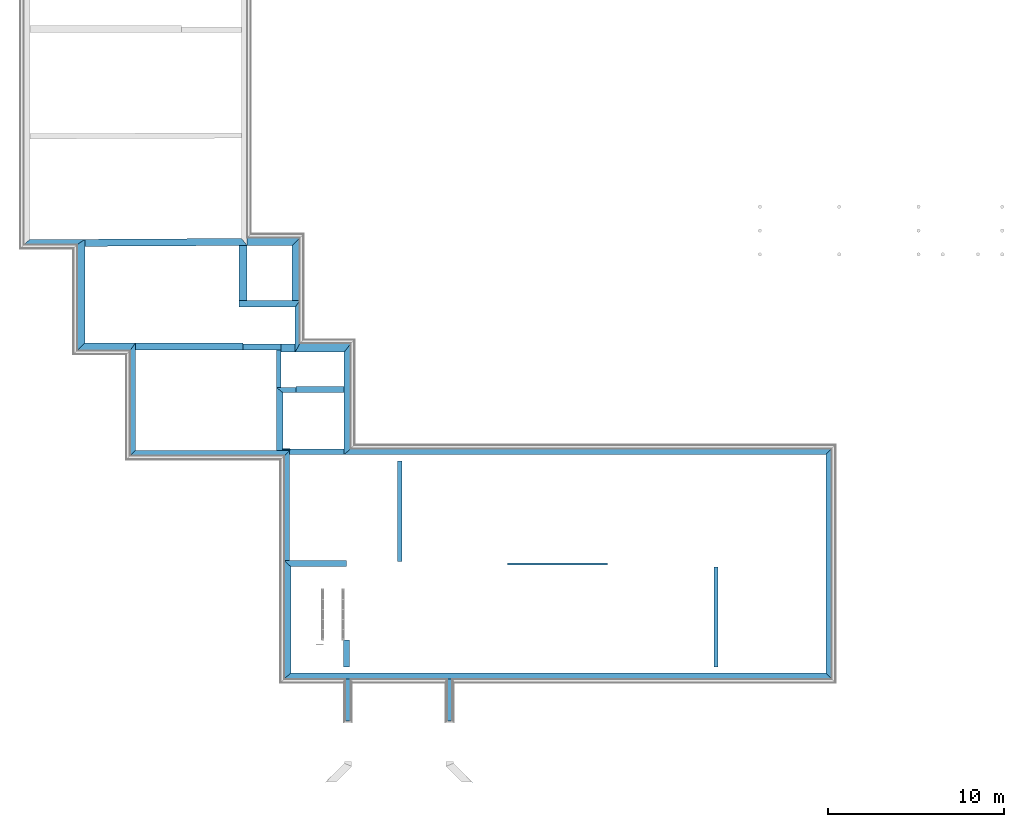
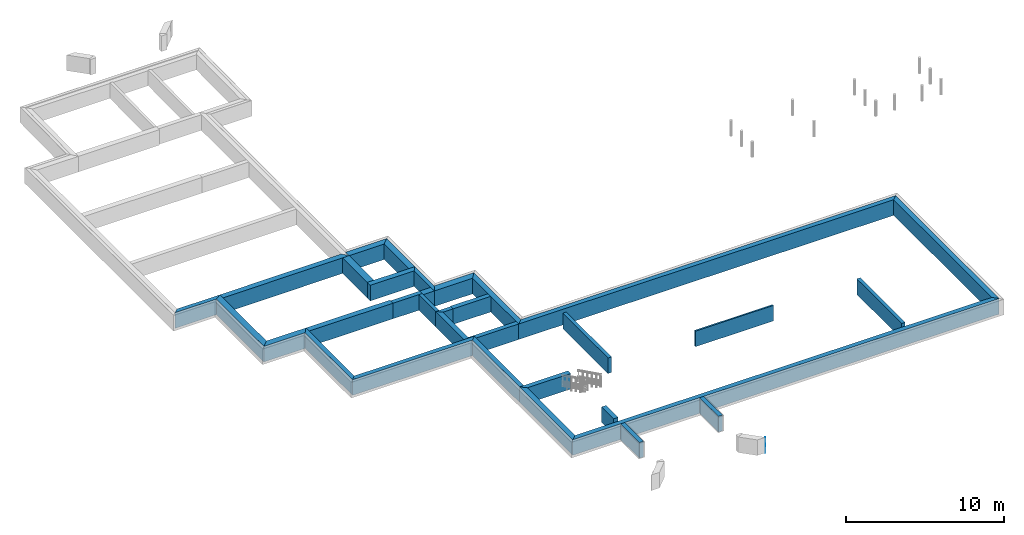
# One storey, part 7 of 16: 35 walls, 1 opening.
"""IFC2X3 building model written with IfcOpenShell, lengths in millimetres."""

from ifc_helpers import new_model, entity, si_unit, converted_unit, derived_unit, money_unit, direction, frame, origin_with_axes, origin_2d_with_axis, place, context, subcontext, project, spatial, polyline, rectangle, outline, extrude, material, layer, layer_set, layer_usage, type_object, element, save


model = new_model("IFC2X3")

# Units and contexts
model_context = context("Model", 3, precision=0.01, world=origin_with_axes(), true_north=direction((0.0, 1.0)))
body_context = subcontext(model_context, "Body", "Model", "MODEL_VIEW")
ifc_project = project(units=[si_unit("LENGTHUNIT", "METRE", prefix="MILLI"), si_unit("AREAUNIT", "SQUARE_METRE"), si_unit("VOLUMEUNIT", "CUBIC_METRE"), converted_unit("PLANEANGLEUNIT", "DEGREE", entity("IfcPlaneAngleMeasure", 0.0174532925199), si_unit("PLANEANGLEUNIT", "RADIAN"), dimensions=[0, 0, 0, 0, 0, 0, 0]), si_unit("SOLIDANGLEUNIT", "STERADIAN"), money_unit("EUR"), converted_unit("TIMEUNIT", "Year", entity("IfcTimeMeasure", 31556926.0), si_unit("TIMEUNIT", "SECOND"), dimensions=[0, 0, 1, 0, 0, 0, 0]), si_unit("MASSUNIT", "GRAM", prefix="KILO"), si_unit("THERMODYNAMICTEMPERATUREUNIT", "DEGREE_CELSIUS"), si_unit("LUMINOUSINTENSITYUNIT", "LUMEN"), si_unit("ENERGYUNIT", "JOULE", prefix="MEGA"), derived_unit("THERMALCONDUCTANCEUNIT", [(si_unit("POWERUNIT", "WATT"), 1), (si_unit("LENGTHUNIT", "METRE"), -1), (si_unit("THERMODYNAMICTEMPERATUREUNIT", "KELVIN"), -1)]), derived_unit("SPECIFICHEATCAPACITYUNIT", [(si_unit("ENERGYUNIT", "JOULE"), 1), (si_unit("MASSUNIT", "GRAM", prefix="KILO"), -1), (si_unit("THERMODYNAMICTEMPERATUREUNIT", "KELVIN"), -1)]), derived_unit("MASSDENSITYUNIT", [(si_unit("MASSUNIT", "GRAM", prefix="KILO"), 1), (si_unit("VOLUMEUNIT", "CUBIC_METRE"), -1)])], contexts=[model_context])

# Site, building, storey
site_placement = place(None, origin_with_axes())
site = spatial("IfcSite", under=ifc_project, at=site_placement, Name="Paldiski mnt 245/1, Tallinn, Harjumaa", CompositionType="COMPLEX")
building_placement = place(site_placement, origin_with_axes())
building = spatial("IfcBuilding", under=site, at=building_placement, Name="RKAS Hoone üldnimetus (kasutust iseloomustav) -> IFC Project Manager -> SOLIBRI", CompositionType="ELEMENT")
storey_placement = place(building_placement, frame((0.0, 0.0, -1200.0), z_axis=(0.0, 0.0, 1.0), x_axis=(1.0, 0.0, 0.0)))
storey = spatial("IfcBuildingStorey", under=building, at=storey_placement, Name="Vundament", CompositionType="ELEMENT", Elevation=-1200.0)

# Walls
ifc_material_1 = material(Name="Olemasolev raudbetoonplokk")
ifc_layer_1 = layer(ifc_material_1, 320.0, ventilated="UNKNOWN")
ifc_layer_set_1 = layer_set([ifc_layer_1], Name="Olemasolev raudbetoonplokk 320")
ifc_layer_usage_1 = layer_usage(ifc_layer_set_1, "AXIS2", "POSITIVE", 0.0)
wall_type_1 = type_object("IfcWallType", Name="Olemasolev raudbetoonplokk 320", PredefinedType="NOTDEFINED")
wall_1_placement = place(storey_placement, frame((-56390.0, 130.000000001, 0.0), z_axis=(0.0, 0.0, 1.0), x_axis=(0.0, 1.0, 0.0)))
element("IfcWallStandardCase", 1, at=wall_1_placement, inside=storey, type_object=wall_type_1, material=ifc_layer_usage_1, Name="VS-01", context=body_context, shape_type="SweptSolid", body=[
    extrude(outline(polyline([(0.0, 0.0), (6100.0, 0.0), (5660.0, 320.0), (-320.0, 320.0), (0.0, 0.0)])), origin_with_axes(), (0.0, 0.0, 1.0), 1200.0),
])
ifc_layer_usage_2 = layer_usage(ifc_layer_set_1, "AXIS2", "POSITIVE", 0.0)
wall_2_placement = place(storey_placement, frame((-47650.0, -6130.08408706, 0.0), z_axis=(0.0, 0.0, 1.0), x_axis=(0.0, 1.0, 0.0)))
element("IfcWallStandardCase", 2, at=wall_2_placement, inside=storey, type_object=wall_type_1, material=ifc_layer_usage_2, Name="VS-01", context=body_context, shape_type="SweptSolid", body=[
    extrude(outline(polyline([(0.0, 0.0), (6260.08408706, 0.0), (5940.08408706, 320.0), (0.0, 320.0), (0.0, 0.0)])), origin_with_axes(), (0.0, 0.0, 1.0), 1200.0),
])
ifc_layer_usage_3 = layer_usage(ifc_layer_set_1, "AXIS2", "POSITIVE", 0.0)
wall_3_placement = place(storey_placement, frame((-47650.0, 130.000000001, 0.0), z_axis=(0.0, 0.0, 1.0), x_axis=(-1.0, 0.0, 0.0)))
element("IfcWallStandardCase", 3, at=wall_3_placement, inside=storey, type_object=wall_type_1, material=ifc_layer_usage_3, Name="VS-01", context=body_context, shape_type="SweptSolid", body=[
    extrude(outline(polyline([(0.0, 0.0), (8740.0, 0.0), (9060.0, 320.0), (320.0, 320.0), (0.0, 0.0)])), origin_with_axes(), (0.0, 0.0, 1.0), 1200.0),
])
ifc_layer_usage_4 = layer_usage(ifc_layer_set_1, "AXIS2", "NEGATIVE", 0.0)
wall_4_placement = place(storey_placement, frame((-50290.0, 6150.0, 0.0), z_axis=(0.0, 0.0, 1.0), x_axis=(1.0, 0.0, 0.0)))
element("IfcWallStandardCase", 4, at=wall_4_placement, inside=storey, type_object=wall_type_1, material=ifc_layer_usage_4, Name="Vundament", context=body_context, shape_type="SweptSolid", body=[
    extrude(outline(polyline([(0.0, -320.0), (2150.0, -320.0), (2150.0, 0.0), (0.0, 0.0), (0.0, -320.0)])), origin_with_axes(), (0.0, 0.0, 1.0), 1200.0),
])
ifc_layer_2 = layer(ifc_material_1, 340.0, ventilated="UNKNOWN")
ifc_layer_set_2 = layer_set([ifc_layer_2], Name="Olemasolev raudbetoonplokk 340")
ifc_layer_usage_5 = layer_usage(ifc_layer_set_2, "AXIS2", "NEGATIVE", 0.0)
wall_type_2 = type_object("IfcWallType", Name="Olemasolev raudbetoonplokk 340", PredefinedType="NOTDEFINED")
wall_5_placement = place(storey_placement, frame((-17230.0, -12510.0843011, 0.0), z_axis=(0.0, 0.0, 1.0), x_axis=(0.0, 1.0, 0.0)))
element("IfcWallStandardCase", 5, at=wall_5_placement, inside=storey, type_object=wall_type_2, material=ifc_layer_usage_5, Name="VS-01", context=body_context, shape_type="SweptSolid", body=[
    extrude(outline(polyline([(-340.0, -340.0), (12740.0843011, -340.0), (12400.0843011, 0.0), (0.0, 0.0), (-340.0, -340.0)])), origin_with_axes(), (0.0, 0.0, 1.0), 1200.0),
])
ifc_layer_usage_6 = layer_usage(ifc_layer_set_2, "AXIS2", "POSITIVE", 0.0)
wall_6_placement = place(storey_placement, frame((-17230.0, -12510.0843011, 0.0), z_axis=(0.0, 0.0, 1.0), x_axis=(-1.0, 0.0, 0.0)))
element("IfcWallStandardCase", 6, at=wall_6_placement, inside=storey, type_object=wall_type_2, material=ifc_layer_usage_6, Name="VS-01", context=body_context, shape_type="SweptSolid", body=[
    extrude(outline(polyline([(0.0, 0.0), (30360.0, 0.0), (30740.0, 340.0), (-340.0, 340.0), (0.0, 0.0)])), origin_with_axes(), (0.0, 0.0, 1.0), 1200.0),
])
ifc_layer_usage_7 = layer_usage(ifc_layer_set_2, "AXIS2", "NEGATIVE", 0.0)
wall_7_placement = place(storey_placement, frame((-17230.0, -110.0, 0.0), z_axis=(0.0, 0.0, 1.0), x_axis=(-1.0, 0.0, 0.0)))
element("IfcWallStandardCase", 7, at=wall_7_placement, inside=storey, type_object=wall_type_2, material=ifc_layer_usage_7, Name="VS-01", context=body_context, shape_type="SweptSolid", body=[
    extrude(outline(polyline([(-340.0, -340.0), (26950.5504586, -340.0), (27330.5504586, 0.0), (0.0, 0.0), (-340.0, -340.0)])), origin_with_axes(), (0.0, 0.0, 1.0), 1200.0),
])
ifc_layer_usage_8 = layer_usage(ifc_layer_set_2, "AXIS2", "NEGATIVE", 0.0)
wall_8_placement = place(storey_placement, frame((-44560.5504586, 3399.82872435, 0.0), z_axis=(0.0, 0.0, 1.0), x_axis=(-1.0, 0.0, 0.0)))
element("IfcWallStandardCase", 8, at=wall_8_placement, inside=storey, type_object=wall_type_2, material=ifc_layer_usage_8, Name="Vundament", context=body_context, shape_type="SweptSolid", body=[
    extrude(outline(polyline([(0.0, -340.0), (2739.44954137, -340.0), (2739.44954137, 0.0), (0.0, 0.0), (0.0, -340.0)])), origin_with_axes(), (0.0, 0.0, 1.0), 1200.0),
])
ifc_layer_usage_9 = layer_usage(ifc_layer_set_2, "AXIS2", "POSITIVE", 0.0)
wall_9_placement = place(storey_placement, frame((-44440.0, -6130.08408706, 0.0), z_axis=(0.0, 0.0, 1.0), x_axis=(-1.0, 0.0, 0.0)))
element("IfcWallStandardCase", 9, at=wall_9_placement, inside=storey, type_object=wall_type_2, material=ifc_layer_usage_9, Name="Vundament", context=body_context, shape_type="SweptSolid", body=[
    extrude(outline(polyline([(0.0, 0.0), (3530.0, 0.0), (3150.0, 340.0), (0.0, 340.0), (0.0, 0.0)])), origin_with_axes(), (0.0, 0.0, 1.0), 1200.0),
])
ifc_layer_usage_10 = layer_usage(ifc_layer_set_2, "AXIS2", "POSITIVE", 0.0)
wall_10_placement = place(storey_placement, frame((-44590.0, -10630.0402139, 0.0), z_axis=(0.0, 0.0, 1.0), x_axis=(0.0, -1.0, 0.0)))
element("IfcWallStandardCase", 10, at=wall_10_placement, inside=storey, type_object=wall_type_2, material=ifc_layer_usage_10, Name="Vundament", context=body_context, shape_type="SweptSolid", body=[
    extrude(outline(polyline([(0.0, 0.0), (1520.04387313, 0.0), (1520.04387313, 340.0), (0.0, 340.0), (0.0, 0.0)])), origin_with_axes(), (0.0, 0.0, 1.0), 1200.0),
])
ifc_layer_3 = layer(ifc_material_1, 380.0, ventilated="UNKNOWN")
ifc_layer_set_3 = layer_set([ifc_layer_3], Name="Olemasolev raudbetoonplokk 380")
ifc_layer_usage_11 = layer_usage(ifc_layer_set_3, "AXIS2", "NEGATIVE", 0.0)
wall_type_3 = type_object("IfcWallType", Name="Olemasolev raudbetoonplokk 380", PredefinedType="NOTDEFINED")
wall_11_placement = place(storey_placement, frame((-44560.5504586, -109.999999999, 0.0), z_axis=(0.0, 0.0, 1.0), x_axis=(0.0, 1.0, 0.0)))
element("IfcWallStandardCase", 11, at=wall_11_placement, inside=storey, type_object=wall_type_3, material=ifc_layer_usage_11, Name="VS-01", context=body_context, shape_type="SweptSolid", body=[
    extrude(outline(polyline([(340.0, -380.0), (6299.82872435, -380.0), (5809.82872435, 0.0), (0.0, 0.0), (340.0, -380.0)])), origin_with_axes(), (0.0, 0.0, 1.0), 1200.0),
])
ifc_layer_usage_12 = layer_usage(ifc_layer_set_3, "AXIS2", "POSITIVE", 0.0)
wall_12_placement = place(storey_placement, frame((-47590.0, -12510.0843011, 0.0), z_axis=(0.0, 0.0, 1.0), x_axis=(0.0, 1.0, 0.0)))
element("IfcWallStandardCase", 12, at=wall_12_placement, inside=storey, type_object=wall_type_3, material=ifc_layer_usage_12, Name="VS-01", context=body_context, shape_type="SweptSolid", body=[
    extrude(outline(polyline([(0.0, 0.0), (6040.00021402, 0.0), (6380.00021402, 380.0), (-340.0, 380.0), (0.0, 0.0)])), origin_with_axes(), (0.0, 0.0, 1.0), 1200.0),
])
ifc_layer_usage_13 = layer_usage(ifc_layer_set_3, "AXIS2", "NEGATIVE", 0.0)
wall_13_placement = place(storey_placement, frame((-47340.0, 8250.0, 0.0), z_axis=(0.0, 0.0, 1.0), x_axis=(-1.0, 0.0, 0.0)))
element("IfcWallStandardCase", 13, at=wall_13_placement, inside=storey, type_object=wall_type_3, material=ifc_layer_usage_13, Name="Vundament", context=body_context, shape_type="SweptSolid", body=[
    extrude(outline(polyline([(-270.0, -380.0), (3199.99758656, -380.0), (3199.99758656, 0.0), (0.0, 0.0), (-270.0, -380.0)])), origin_with_axes(), (0.0, 0.0, 1.0), 1200.0),
])
ifc_material_2 = material(Name="KON-00_GENEERILINE - KONSTRUKTSIOON")
ifc_layer_4 = layer(ifc_material_2, 490.0, ventilated="UNKNOWN")
ifc_layer_set_4 = layer_set([ifc_layer_4], Name="KON-00_GENEERILINE - KONSTRUKTSIOON 490")
ifc_layer_usage_14 = layer_usage(ifc_layer_set_4, "AXIS2", "NEGATIVE", 0.0)
wall_type_4 = type_object("IfcWallType", Name="KON-00_GENEERILINE - KONSTRUKTSIOON 490", PredefinedType="NOTDEFINED")
wall_14_placement = place(storey_placement, frame((-44560.5504586, 5699.82872435, 0.0), z_axis=(0.0, 0.0, 1.0), x_axis=(-1.0, 0.0, 0.0)))
element("IfcWallStandardCase", 14, at=wall_14_placement, inside=storey, type_object=wall_type_4, material=ifc_layer_usage_14, Name="VS-01", context=body_context, shape_type="SweptSolid", body=[
    extrude(outline(polyline([(-380.0, -490.0), (2509.44954137, -490.0), (2779.44954137, 0.0), (0.0, 0.0), (-380.0, -490.0)])), origin_with_axes(), (0.0, 0.0, 1.0), 1200.0),
])
ifc_layer_5 = layer(ifc_material_1, 400.0, ventilated="UNKNOWN")
ifc_layer_set_5 = layer_set([ifc_layer_5], Name="Olemasolev raudbetoonplokk 400")
ifc_layer_usage_15 = layer_usage(ifc_layer_set_5, "AXIS2", "POSITIVE", 0.0)
wall_type_5 = type_object("IfcWallType", Name="Olemasolev raudbetoonplokk 400", PredefinedType="NOTDEFINED")
wall_15_placement = place(storey_placement, frame((-59270.0, 11699.8223836, 0.0), z_axis=(0.0, 0.0, 1.0), x_axis=(0.999984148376, 0.00563054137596, 0.0)))
element("IfcWallStandardCase", 15, at=wall_15_placement, inside=storey, type_object=wall_type_5, material=ifc_layer_usage_15, Name="Vundament", context=body_context, shape_type="SweptSolid", body=[
    extrude(outline(polyline([(0.0, 0.0), (9200.14583725, 0.0), (8882.3930169, 400.0), (2.25225225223, 400.0), (0.0, 0.0)])), origin_with_axes(), (0.0, 0.0, 1.0), 1200.0),
])
ifc_layer_usage_16 = layer_usage(ifc_layer_set_5, "AXIS2", "NEGATIVE", 0.0)
wall_16_placement = place(storey_placement, frame((-56390.0, 6230.0, 0.0), z_axis=(0.0, 0.0, 1.0), x_axis=(1.0, 0.0, 0.0)))
element("IfcWallStandardCase", 16, at=wall_16_placement, inside=storey, type_object=wall_type_5, material=ifc_layer_usage_16, Name="Vundament", context=body_context, shape_type="SweptSolid", body=[
    extrude(outline(polyline([(0.0, -400.0), (6100.0, -400.0), (6100.0, 0.0), (0.0, 0.0), (0.0, -400.0)])), origin_with_axes(), (0.0, 0.0, 1.0), 1200.0),
])
ifc_layer_6 = layer(ifc_material_1, 440.0, ventilated="UNKNOWN")
ifc_layer_set_6 = layer_set([ifc_layer_6], Name="Olemasolev raudbetoonplokk 440")
ifc_layer_usage_17 = layer_usage(ifc_layer_set_6, "AXIS2", "POSITIVE", 0.0)
wall_type_6 = type_object("IfcWallType", Name="Olemasolev raudbetoonplokk 440", PredefinedType="NOTDEFINED")
wall_17_placement = place(storey_placement, frame((-50070.0, 11749.8287244, 0.0), z_axis=(0.0, 0.0, 1.0), x_axis=(1.0, 0.0, 0.0)))
element("IfcWallStandardCase", 17, at=wall_17_placement, inside=storey, type_object=wall_type_6, material=ifc_layer_usage_17, Name="VS-01", context=body_context, shape_type="SweptSolid", body=[
    extrude(outline(polyline([(0.0, 0.0), (2560.0, 0.0), (3000.0, 440.0), (0.0, 440.0), (0.0, 0.0)])), origin_with_axes(), (0.0, 0.0, 1.0), 1200.0),
])
ifc_layer_usage_18 = layer_usage(ifc_layer_set_6, "AXIS2", "NEGATIVE", 0.0)
wall_18_placement = place(storey_placement, frame((-47510.0, 8630.0, 0.0), z_axis=(0.0, 0.0, 1.0), x_axis=(0.0, 1.0, 0.0)))
element("IfcWallStandardCase", 18, at=wall_18_placement, inside=storey, type_object=wall_type_6, material=ifc_layer_usage_18, Name="VS-01", context=body_context, shape_type="SweptSolid", body=[
    extrude(outline(polyline([(0.0, -440.0), (3559.82872435, -440.0), (3119.82872435, 0.0), (0.0, 0.0), (0.0, -440.0)])), origin_with_axes(), (0.0, 0.0, 1.0), 1200.0),
])
ifc_layer_usage_19 = layer_usage(ifc_layer_set_6, "AXIS2", "POSITIVE", 0.0)
wall_19_placement = place(storey_placement, frame((-56390.0, 6230.0, 0.0), z_axis=(0.0, 0.0, 1.0), x_axis=(-1.0, 0.0, 0.0)))
element("IfcWallStandardCase", 19, at=wall_19_placement, inside=storey, type_object=wall_type_6, material=ifc_layer_usage_19, Name="VS-01", context=body_context, shape_type="SweptSolid", body=[
    extrude(outline(polyline([(0.0, 0.0), (2880.0, 0.0), (3320.0, 440.0), (320.0, 440.0), (0.0, 0.0)])), origin_with_axes(), (0.0, 0.0, 1.0), 1200.0),
])
ifc_layer_usage_20 = layer_usage(ifc_layer_set_6, "AXIS2", "NEGATIVE", 0.0)
wall_20_placement = place(storey_placement, frame((-59270.0, 12099.8287244, 0.0), z_axis=(0.0, 0.0, 1.0), x_axis=(0.0, -1.0, 0.0)))
element("IfcWallStandardCase", 20, at=wall_20_placement, inside=storey, type_object=wall_type_6, material=ifc_layer_usage_20, Name="VS-01", context=body_context, shape_type="SweptSolid", body=[
    extrude(outline(polyline([(300.0, -440.0), (6309.82872435, -440.0), (5869.82872435, 0.0), (0.0, 0.0), (300.0, -440.0)])), origin_with_axes(), (0.0, 0.0, 1.0), 1200.0),
])
ifc_layer_7 = layer(ifc_material_1, 300.0, ventilated="UNKNOWN")
ifc_layer_set_7 = layer_set([ifc_layer_7], Name="Olemasolev raudbetoonplokk 300")
ifc_layer_usage_21 = layer_usage(ifc_layer_set_7, "AXIS2", "NEGATIVE", 0.0)
wall_type_7 = type_object("IfcWallType", Name="Olemasolev raudbetoonplokk 300", PredefinedType="NOTDEFINED")
wall_21_placement = place(storey_placement, frame((-62390.0, 12099.8287244, 0.0), z_axis=(0.0, 0.0, 1.0), x_axis=(1.0, 0.0, 0.0)))
element("IfcWallStandardCase", 21, at=wall_21_placement, inside=storey, type_object=wall_type_7, material=ifc_layer_usage_21, Name="VS-01", context=body_context, shape_type="SweptSolid", body=[
    extrude(outline(polyline([(-340.0, -300.0), (2680.0, -300.0), (3120.0, 0.0), (0.0, 0.0), (-340.0, -300.0)])), origin_with_axes(), (0.0, 0.0, 1.0), 1200.0),
])
ifc_layer_usage_22 = layer_usage(ifc_layer_set_7, "AXIS2", "POSITIVE", -150.0)
wall_22_placement = place(storey_placement, frame((-44340.0, -12510.0843011, 0.0), z_axis=(0.0, 0.0, 1.0), x_axis=(0.0, -1.0, 0.0)))
element("IfcWallStandardCase", 22, at=wall_22_placement, inside=storey, type_object=wall_type_7, material=ifc_layer_usage_22, Name="Vundament", context=body_context, shape_type="SweptSolid", body=[
    extrude(outline(polyline([(340.0, -150.0), (2719.0, -150.0), (2719.0, 150.0), (340.0, 150.0), (340.0, -150.0)])), origin_with_axes(), (0.0, 0.0, 1.0), 1200.0),
])
ifc_layer_usage_23 = layer_usage(ifc_layer_set_7, "AXIS2", "NEGATIVE", 150.0)
wall_23_placement = place(storey_placement, frame((-38570.0, -12510.0862799, 0.0), z_axis=(0.0, 0.0, 1.0), x_axis=(0.0, -1.0, 0.0)))
element("IfcWallStandardCase", 23, at=wall_23_placement, inside=storey, type_object=wall_type_7, material=ifc_layer_usage_23, Name="Vundament", context=body_context, shape_type="SweptSolid", body=[
    extrude(outline(polyline([(339.99802122, -150.0), (2719.00000039, -150.0), (2719.00000039, 150.0), (339.99802122, 150.0), (339.99802122, -150.0)])), origin_with_axes(), (0.0, 0.0, 1.0), 1200.0),
])
ifc_layer_usage_24 = layer_usage(ifc_layer_set_7, "AXIS2", "NEGATIVE", 0.0)
wall_24_placement = place(storey_placement, frame((-47300.0, 3399.82872435, 0.0), z_axis=(0.0, 0.0, 1.0), x_axis=(-1.0, 0.0, 0.0)))
element("IfcWallStandardCase", 24, at=wall_24_placement, inside=storey, type_object=wall_type_7, material=ifc_layer_usage_24, Name="Vundament", context=body_context, shape_type="SweptSolid", body=[
    extrude(outline(polyline([(0.0, -300.0), (1100.0, -300.0), (740.0, 0.0), (0.0, 0.0), (0.0, -300.0)])), origin_with_axes(), (0.0, 0.0, 1.0), 1200.0),
])

# Wall, opening
ifc_layer_8 = layer(ifc_material_2, 270.0, ventilated="UNKNOWN")
ifc_layer_set_8 = layer_set([ifc_layer_8], Name="KON-00_GENEERILINE - KONSTRUKTSIOON 270")
ifc_layer_usage_25 = layer_usage(ifc_layer_set_8, "AXIS2", "NEGATIVE", 0.0)
wall_type_8 = type_object("IfcWallType", Name="KON-00_GENEERILINE - KONSTRUKTSIOON 270", PredefinedType="NOTDEFINED")
wall_25_placement = place(storey_placement, frame((-47340.0, 5699.82872435, 0.0), z_axis=(0.0, 0.0, 1.0), x_axis=(0.0, 1.0, 0.0)))
wall_25 = element("IfcWallStandardCase", 25, at=wall_25_placement, inside=storey, type_object=wall_type_8, material=ifc_layer_usage_25, Name="VS-01", context=body_context, shape_type="SweptSolid", body=[
    extrude(outline(polyline([(490.0, -270.0), (2930.17127565, -270.0), (2550.17127565, 0.0), (0.0, 0.0), (490.0, -270.0)])), origin_with_axes(), (0.0, 0.0, 1.0), 1200.0),
])
opening_placement = place(wall_25_placement, frame((1636.12142556, 0.0, 1231.06348798), z_axis=(0.0, 0.0, 1.0), x_axis=(1.0, 0.0, 0.0)))
element("IfcOpeningElement", 26, at=opening_placement, cuts=wall_25, Name="UKS", context=body_context, shape_type="SweptSolid", body=[
    extrude(rectangle(XDim=1252.24285112, YDim=2100.0, at=origin_2d_with_axis()), frame((0.0, -270.0, 1050.0), z_axis=(0.0, 1.0, 0.0), x_axis=(1.0, 0.0, 0.0)), (0.0, 0.0, -1.0), 270.0),
    extrude(rectangle(XDim=1252.24285112, YDim=2100.0, at=origin_2d_with_axis()), frame((0.0, -270.0, 1050.0), z_axis=(0.0, -1.0, 0.0), x_axis=(1.0, 0.0, 0.0)), (0.0, 0.0, -1.0), 270.0),
])

# Walls
ifc_layer_9 = layer(ifc_material_2, 320.0, ventilated="UNKNOWN")
ifc_layer_set_9 = layer_set([ifc_layer_9], Name="KON-00_GENEERILINE - KONSTRUKTSIOON 320")
ifc_layer_usage_26 = layer_usage(ifc_layer_set_9, "AXIS2", "NEGATIVE", 0.0)
wall_type_9 = type_object("IfcWallType", Name="KON-00_GENEERILINE - KONSTRUKTSIOON 320", PredefinedType="NOTDEFINED")
wall_26_placement = place(storey_placement, frame((-47650.0, 210.000000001, 0.0), z_axis=(0.0, 0.0, 1.0), x_axis=(1.0, 0.0, 0.0)))
element("IfcWallStandardCase", 27, at=wall_26_placement, inside=storey, type_object=wall_type_9, material=ifc_layer_usage_26, Name="Vundament", context=body_context, shape_type="SweptSolid", body=[
    extrude(outline(polyline([(0.0, -320.0), (3089.44954137, -320.0), (3089.44954137, 0.0), (0.0, 0.0), (0.0, -320.0)])), origin_with_axes(), (0.0, 0.0, 1.0), 1200.0),
])
ifc_layer_10 = layer(ifc_material_2, 80.0, ventilated="UNKNOWN")
ifc_layer_set_10 = layer_set([ifc_layer_10], Name="KON-00_GENEERILINE - KONSTRUKTSIOON 80")
ifc_layer_usage_27 = layer_usage(ifc_layer_set_10, "AXIS2", "POSITIVE", 0.0)
wall_type_10 = type_object("IfcWallType", Name="KON-00_GENEERILINE - KONSTRUKTSIOON 80", PredefinedType="NOTDEFINED")
wall_27_placement = place(storey_placement, frame((-47650.0, 210.000000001, 0.0), z_axis=(0.0, 0.0, 1.0), x_axis=(-1.0, 0.0, 0.0)))
element("IfcWallStandardCase", 28, at=wall_27_placement, inside=storey, type_object=wall_type_10, material=ifc_layer_usage_27, Name="Vundament", context=body_context, shape_type="SweptSolid", body=[
    extrude(outline(polyline([(0.0, 0.0), (390.0, 0.0), (390.0, 80.0), (0.0, 80.0), (0.0, 0.0)])), origin_with_axes(), (0.0, 0.0, 1.0), 1200.0),
])
ifc_layer_11 = layer(ifc_material_1, 450.0, ventilated="UNKNOWN")
ifc_layer_set_11 = layer_set([ifc_layer_11], Name="Olemasolev raudbetoonplokk 450")
ifc_layer_usage_28 = layer_usage(ifc_layer_set_11, "AXIS2", "NEGATIVE", 0.0)
wall_type_11 = type_object("IfcWallType", Name="Olemasolev raudbetoonplokk 450", PredefinedType="NOTDEFINED")
wall_28_placement = place(storey_placement, frame((-48140.0, 6150.0, 0.0), z_axis=(0.0, 0.0, 1.0), x_axis=(1.0, 0.0, 0.0)))
element("IfcWallStandardCase", 29, at=wall_28_placement, inside=storey, type_object=wall_type_11, material=ifc_layer_usage_28, Name="Vundament", context=body_context, shape_type="SweptSolid", body=[
    extrude(outline(polyline([(0.0, -450.0), (800.0, -450.0), (800.0, 0.0), (0.0, 0.0), (0.0, -450.0)])), origin_with_axes(), (0.0, 0.0, 1.0), 1200.0),
])
ifc_layer_12 = layer(ifc_material_1, 480.0, ventilated="UNKNOWN")
ifc_layer_set_12 = layer_set([ifc_layer_12], Name="Olemasolev raudbetoonplokk 480")
ifc_layer_usage_29 = layer_usage(ifc_layer_set_12, "AXIS2", "NEGATIVE", 0.0)
wall_type_12 = type_object("IfcWallType", Name="Olemasolev raudbetoonplokk 480", PredefinedType="NOTDEFINED")
wall_29_placement = place(storey_placement, frame((-50539.9975866, 8630.0, 0.0), z_axis=(0.0, 0.0, 1.0), x_axis=(0.0, 1.0, 0.0)))
element("IfcWallStandardCase", 30, at=wall_29_placement, inside=storey, type_object=wall_type_12, material=ifc_layer_usage_29, Name="Vundament", context=body_context, shape_type="SweptSolid", body=[
    extrude(outline(polyline([(0.0, -480.0), (3121.6805053, -480.0), (3118.9778026, 0.0), (0.0, 0.0), (0.0, -480.0)])), origin_with_axes(), (0.0, 0.0, 1.0), 1200.0),
])
ifc_layer_13 = layer(ifc_material_1, 260.0, ventilated="UNKNOWN")
ifc_layer_set_13 = layer_set([ifc_layer_13], Name="Olemasolev raudbetoonplokk 260")
ifc_layer_usage_30 = layer_usage(ifc_layer_set_13, "AXIS2", "NEGATIVE", 0.0)
wall_type_13 = type_object("IfcWallType", Name="Olemasolev raudbetoonplokk 260", PredefinedType="NOTDEFINED")
wall_30_placement = place(storey_placement, frame((-48140.0, 6150.0, 0.0), z_axis=(0.0, 0.0, 1.0), x_axis=(0.0, -1.0, 0.0)))
element("IfcWallStandardCase", 31, at=wall_30_placement, inside=storey, type_object=wall_type_13, material=ifc_layer_usage_30, Name="Vundament", context=body_context, shape_type="SweptSolid", body=[
    extrude(outline(polyline([(320.0, -260.0), (2450.17127565, -260.0), (2450.17127565, 0.0), (320.0, 0.0), (320.0, -260.0)])), origin_with_axes(), (0.0, 0.0, 1.0), 1200.0),
])
ifc_layer_14 = layer(ifc_material_1, 360.0, ventilated="UNKNOWN")
ifc_layer_set_14 = layer_set([ifc_layer_14], Name="Olemasolev raudbetoonplokk 360")
ifc_layer_usage_31 = layer_usage(ifc_layer_set_14, "AXIS2", "NEGATIVE", 0.0)
wall_type_14 = type_object("IfcWallType", Name="Olemasolev raudbetoonplokk 360", PredefinedType="NOTDEFINED")
wall_31_placement = place(storey_placement, frame((-48040.0, 3399.82872435, 0.0), z_axis=(0.0, 0.0, 1.0), x_axis=(0.0, -1.0, 0.0)))
element("IfcWallStandardCase", 32, at=wall_31_placement, inside=storey, type_object=wall_type_14, material=ifc_layer_usage_31, Name="Vundament", context=body_context, shape_type="SweptSolid", body=[
    extrude(outline(polyline([(-300.0, -360.0), (3269.82872435, -360.0), (3269.82872435, 0.0), (0.0, 0.0), (-300.0, -360.0)])), origin_with_axes(), (0.0, 0.0, 1.0), 1200.0),
])
ifc_layer_15 = layer(ifc_material_1, 120.0, ventilated="UNKNOWN")
ifc_layer_set_15 = layer_set([ifc_layer_15], Name="Olemasolev raudbetoonplokk 120")
ifc_layer_usage_32 = layer_usage(ifc_layer_set_15, "AXIS2", "NEGATIVE", 0.0)
wall_type_15 = type_object("IfcWallType", Name="Olemasolev raudbetoonplokk 120", PredefinedType="NOTDEFINED")
wall_32_placement = place(storey_placement, frame((-35289.9999886, -6260.0, 0.0), z_axis=(0.0, 0.0, 1.0), x_axis=(1.0, 0.0, 0.0)))
element("IfcWallStandardCase", 33, at=wall_32_placement, inside=storey, type_object=wall_type_15, material=ifc_layer_usage_32, Name="Vundament", context=body_context, shape_type="SweptSolid", body=[
    extrude(outline(polyline([(0.0, -120.0), (5679.99998856, -120.0), (5679.99998856, 0.0), (0.0, 0.0), (0.0, -120.0)])), origin_with_axes(), (0.0, 0.0, 1.0), 1200.0),
])
ifc_layer_16 = layer(ifc_material_1, 250.0, ventilated="UNKNOWN")
ifc_layer_set_16 = layer_set([ifc_layer_16], Name="Olemasolev raudbetoonplokk 250")
ifc_layer_usage_33 = layer_usage(ifc_layer_set_16, "AXIS2", "NEGATIVE", 0.0)
wall_type_16 = type_object("IfcWallType", Name="Olemasolev raudbetoonplokk 250", PredefinedType="NOTDEFINED")
wall_33_placement = place(storey_placement, frame((-41290.0, -469.999999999, 0.0), z_axis=(0.0, 0.0, 1.0), x_axis=(0.0, -1.0, 0.0)))
element("IfcWallStandardCase", 34, at=wall_33_placement, inside=storey, type_object=wall_type_16, material=ifc_layer_usage_33, Name="Vundament", context=body_context, shape_type="SweptSolid", body=[
    extrude(outline(polyline([(0.0, -250.0), (5710.0, -250.0), (5710.0, 0.0), (0.0, 0.0), (0.0, -250.0)])), origin_with_axes(), (0.0, 0.0, 1.0), 1200.0),
])
ifc_layer_usage_34 = layer_usage(ifc_layer_set_16, "AXIS2", "NEGATIVE", 0.0)
wall_34_placement = place(storey_placement, frame((-23340.0, -6480.0, 0.0), z_axis=(0.0, 0.0, 1.0), x_axis=(0.0, -1.0, 0.0)))
element("IfcWallStandardCase", 35, at=wall_34_placement, inside=storey, type_object=wall_type_16, material=ifc_layer_usage_34, Name="Vundament", context=body_context, shape_type="SweptSolid", body=[
    extrude(outline(polyline([(0.0, -250.0), (5670.08408706, -250.0), (5670.08408706, 0.0), (0.0, 0.0), (0.0, -250.0)])), origin_with_axes(), (0.0, 0.0, 1.0), 1200.0),
])
ifc_material_3 = material(Name="ET-02_Raudbetoon - Toode")
ifc_layer_17 = layer(ifc_material_3, 1.0, ventilated="UNKNOWN")
ifc_layer_set_17 = layer_set([ifc_layer_17], Name="ET-02_Raudbetoon - Toode 1")
ifc_layer_usage_35 = layer_usage(ifc_layer_set_17, "AXIS2", "NEGATIVE", 0.0)
wall_type_17 = type_object("IfcWallType", Name="ET-02_Raudbetoon - Toode 1", PredefinedType="NOTDEFINED")
wall_35_placement = place(storey_placement, frame((-37296.1791446, -18693.5141429, 0.0), z_axis=(0.0, 0.0, 1.0), x_axis=(-1.0, 0.0, 0.0)))
element("IfcWallStandardCase", 36, at=wall_35_placement, inside=storey, type_object=wall_type_17, material=ifc_layer_usage_35, Name="Vundament", context=body_context, shape_type="SweptSolid", body=[
    extrude(outline(polyline([(2.41984676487, -1.0), (0.0, -1.0), (0.0, 0.0), (2.41984676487, -1.0)])), origin_with_axes(), (0.0, 0.0, 1.0), 1200.0),
])

save(model, "model.ifc")
